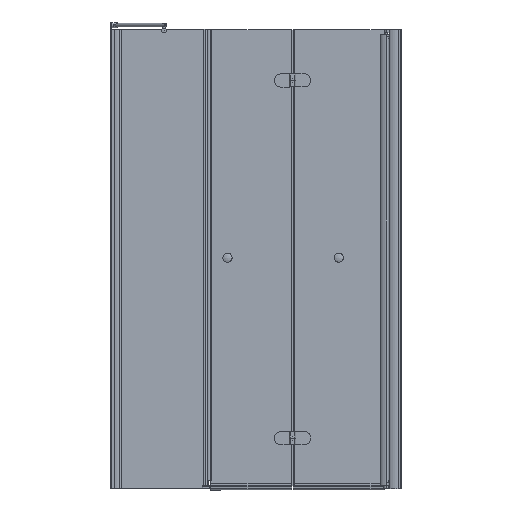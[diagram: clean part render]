
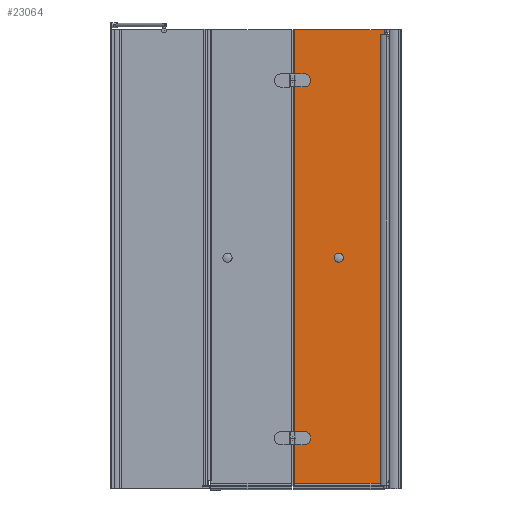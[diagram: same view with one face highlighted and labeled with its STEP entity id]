
A CAD part, front view. The second image highlights one B-rep face of the part: STEP entity #23064.
In plain terms, the highlighted planar face has unit normal (0, -1, 0) as drawn and (0, 1, 0) by its records, which use the part's own axes.
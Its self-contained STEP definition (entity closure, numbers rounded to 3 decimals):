
#694=LINE($,#34504,#2786);
#695=LINE($,#34507,#2787);
#696=LINE($,#34509,#2788);
#697=LINE($,#34510,#2789);
#2786=VECTOR($,#27195,1887.);
#2787=VECTOR($,#27198,375.);
#2788=VECTOR($,#27199,375.);
#2789=VECTOR($,#27200,1887.);
#4876=PLANE($,#24565);
#5670=FACE_BOUND($,#7271,.T.);
#5671=FACE_BOUND($,#7272,.T.);
#5672=FACE_BOUND($,#7273,.T.);
#5673=FACE_BOUND($,#7274,.T.);
#5674=FACE_BOUND($,#7275,.T.);
#5675=FACE_BOUND($,#7276,.T.);
#7271=EDGE_LOOP($,(#15743));
#7272=EDGE_LOOP($,(#15744));
#7273=EDGE_LOOP($,(#15745));
#7274=EDGE_LOOP($,(#15746));
#7275=EDGE_LOOP($,(#15747));
#7276=EDGE_LOOP($,(#15748,#15749,#15750,#15751));
#8856=CIRCLE($,#24551,5.5);
#8857=CIRCLE($,#24553,5.5);
#8859=CIRCLE($,#24556,5.5);
#8861=CIRCLE($,#24559,5.5);
#8863=CIRCLE($,#24562,5.5);
#9999=VERTEX_POINT($,#34474);
#10000=VERTEX_POINT($,#34477);
#10002=VERTEX_POINT($,#34482);
#10004=VERTEX_POINT($,#34487);
#10006=VERTEX_POINT($,#34492);
#10008=VERTEX_POINT($,#34497);
#10011=VERTEX_POINT($,#34502);
#10012=VERTEX_POINT($,#34506);
#10013=VERTEX_POINT($,#34508);
#12311=EDGE_CURVE($,#9999,#9999,#8856,.T.);
#12312=EDGE_CURVE($,#10000,#10000,#8857,.T.);
#12314=EDGE_CURVE($,#10002,#10002,#8859,.T.);
#12316=EDGE_CURVE($,#10004,#10004,#8861,.T.);
#12318=EDGE_CURVE($,#10006,#10006,#8863,.T.);
#12323=EDGE_CURVE($,#10008,#10011,#694,.T.);
#12324=EDGE_CURVE($,#10012,#10008,#695,.T.);
#12325=EDGE_CURVE($,#10013,#10011,#696,.T.);
#12326=EDGE_CURVE($,#10012,#10013,#697,.T.);
#15743=ORIENTED_EDGE($,*,*,#12311,.T.);
#15744=ORIENTED_EDGE($,*,*,#12312,.T.);
#15745=ORIENTED_EDGE($,*,*,#12314,.T.);
#15746=ORIENTED_EDGE($,*,*,#12316,.T.);
#15747=ORIENTED_EDGE($,*,*,#12318,.T.);
#15748=ORIENTED_EDGE($,*,*,#12324,.T.);
#15749=ORIENTED_EDGE($,*,*,#12323,.T.);
#15750=ORIENTED_EDGE($,*,*,#12325,.F.);
#15751=ORIENTED_EDGE($,*,*,#12326,.F.);
#23064=ADVANCED_FACE($,(#5670,#5671,#5672,#5673,#5674,#5675),#4876,.T.);
#24551=AXIS2_PLACEMENT_3D($,#34475,#27164,#27165);
#24553=AXIS2_PLACEMENT_3D($,#34478,#27168,#27169);
#24556=AXIS2_PLACEMENT_3D($,#34483,#27174,#27175);
#24559=AXIS2_PLACEMENT_3D($,#34488,#27180,#27181);
#24562=AXIS2_PLACEMENT_3D($,#34493,#27186,#27187);
#24565=AXIS2_PLACEMENT_3D($,#34505,#27196,#27197);
#27164=DIRECTION('center_axis',(0.,-1.,0.));
#27165=DIRECTION('ref_axis',(-1.,0.,0.));
#27168=DIRECTION('center_axis',(0.,-1.,0.));
#27169=DIRECTION('ref_axis',(-1.,0.,0.));
#27174=DIRECTION('center_axis',(0.,-1.,0.));
#27175=DIRECTION('ref_axis',(-1.,0.,0.));
#27180=DIRECTION('center_axis',(0.,-1.,0.));
#27181=DIRECTION('ref_axis',(-1.,0.,0.));
#27186=DIRECTION('center_axis',(0.,-1.,0.));
#27187=DIRECTION('ref_axis',(-1.,0.,0.));
#27195=DIRECTION($,(0.,0.,1.));
#27196=DIRECTION('center_axis',(0.,1.,0.));
#27197=DIRECTION('ref_axis',(-1.,0.,0.));
#27198=DIRECTION($,(-1.,0.,0.));
#27199=DIRECTION($,(-1.,0.,0.));
#27200=DIRECTION($,(0.,0.,1.));
#34474=CARTESIAN_POINT('',(193.,6.,943.5));
#34475=CARTESIAN_POINT('Origin',(187.5,6.,943.5));
#34477=CARTESIAN_POINT('',(319.5,6.,197.));
#34478=CARTESIAN_POINT('Origin',(314.,6.,197.));
#34482=CARTESIAN_POINT('',(319.5,6.,1677.));
#34483=CARTESIAN_POINT('Origin',(314.,6.,1677.));
#34487=CARTESIAN_POINT('',(347.5,6.,1677.));
#34488=CARTESIAN_POINT('Origin',(342.,6.,1677.));
#34492=CARTESIAN_POINT('',(347.5,6.,197.));
#34493=CARTESIAN_POINT('Origin',(342.,6.,197.));
#34497=CARTESIAN_POINT('',(0.,6.,0.));
#34502=CARTESIAN_POINT('',(0.,6.,1887.));
#34504=CARTESIAN_POINT($,(0.,6.,0.));
#34505=CARTESIAN_POINT('Origin',(375.,6.,0.));
#34506=CARTESIAN_POINT('',(375.,6.,0.));
#34507=CARTESIAN_POINT($,(375.,6.,0.));
#34508=CARTESIAN_POINT('',(375.,6.,1887.));
#34509=CARTESIAN_POINT($,(375.,6.,1887.));
#34510=CARTESIAN_POINT($,(375.,6.,0.));
